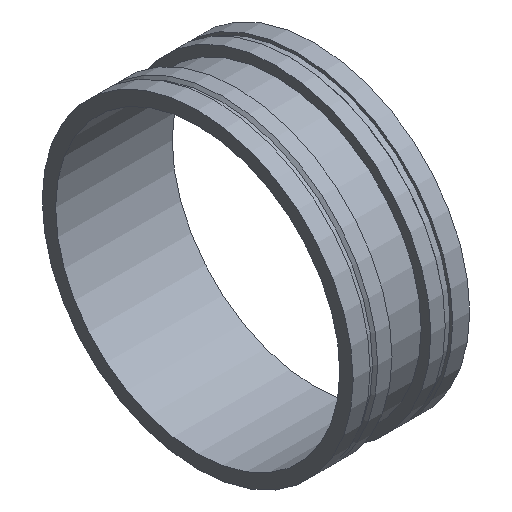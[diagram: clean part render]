
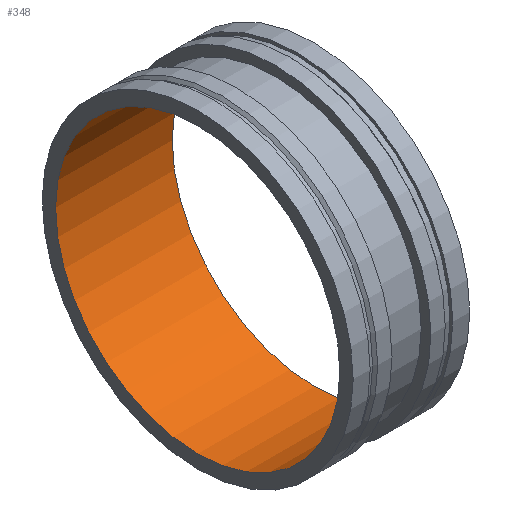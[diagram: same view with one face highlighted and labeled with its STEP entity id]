
A CAD part, isometric view. The second image highlights one B-rep face of the part: STEP entity #348.
In plain terms, the highlighted cylindrical face has radius 371.475 mm (diameter 742.95 mm), a full revolution.
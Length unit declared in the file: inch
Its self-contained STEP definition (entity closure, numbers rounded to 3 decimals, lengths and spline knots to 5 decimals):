
#56=LINE('',#654,#66);
#66=VECTOR('',#537,14.625);
#74=CYLINDRICAL_SURFACE('',#416,14.625);
#96=FACE_OUTER_BOUND('',#118,.T.);
#118=EDGE_LOOP('',(#303,#304,#305,#306,#307,#308));
#121=CIRCLE('',#372,14.625);
#122=CIRCLE('',#373,14.625);
#149=CIRCLE('',#414,14.625);
#150=CIRCLE('',#415,14.625);
#153=VERTEX_POINT('',#570);
#154=VERTEX_POINT('',#571);
#181=VERTEX_POINT('',#649);
#182=VERTEX_POINT('',#650);
#185=EDGE_CURVE('',#153,#154,#121,.T.);
#186=EDGE_CURVE('',#154,#153,#122,.T.);
#222=EDGE_CURVE('',#181,#182,#149,.T.);
#223=EDGE_CURVE('',#182,#181,#150,.T.);
#224=EDGE_CURVE('',#182,#154,#56,.T.);
#303=ORIENTED_EDGE('',*,*,#222,.T.);
#304=ORIENTED_EDGE('',*,*,#224,.T.);
#305=ORIENTED_EDGE('',*,*,#185,.F.);
#306=ORIENTED_EDGE('',*,*,#186,.F.);
#307=ORIENTED_EDGE('',*,*,#224,.F.);
#308=ORIENTED_EDGE('',*,*,#223,.T.);
#348=ADVANCED_FACE('',(#96),#74,.F.);
#372=AXIS2_PLACEMENT_3D('',#572,#438,#439);
#373=AXIS2_PLACEMENT_3D('',#573,#440,#441);
#414=AXIS2_PLACEMENT_3D('',#651,#531,#532);
#415=AXIS2_PLACEMENT_3D('',#652,#533,#534);
#416=AXIS2_PLACEMENT_3D('',#653,#535,#536);
#438=DIRECTION('center_axis',(1.,0.,0.));
#439=DIRECTION('ref_axis',(0.,0.,-1.));
#440=DIRECTION('center_axis',(1.,0.,0.));
#441=DIRECTION('ref_axis',(0.,0.,-1.));
#531=DIRECTION('center_axis',(1.,0.,0.));
#532=DIRECTION('ref_axis',(0.,0.,-1.));
#533=DIRECTION('center_axis',(1.,0.,0.));
#534=DIRECTION('ref_axis',(0.,0.,-1.));
#535=DIRECTION('center_axis',(1.,0.,0.));
#536=DIRECTION('ref_axis',(0.,1.,0.));
#537=DIRECTION('',(-1.,0.,0.));
#570=CARTESIAN_POINT('',(0.,14.625,0.));
#571=CARTESIAN_POINT('',(0.,-14.625,0.));
#572=CARTESIAN_POINT('Origin',(0.,0.,
0.));
#573=CARTESIAN_POINT('Origin',(0.,0.,
0.));
#649=CARTESIAN_POINT('',(12.,14.625,0.));
#650=CARTESIAN_POINT('',(12.,-14.625,0.));
#651=CARTESIAN_POINT('Origin',(12.,0.,0.));
#652=CARTESIAN_POINT('Origin',(12.,0.,0.));
#653=CARTESIAN_POINT('Origin',(6.,0.,0.));
#654=CARTESIAN_POINT('',(6.,-14.625,0.));
